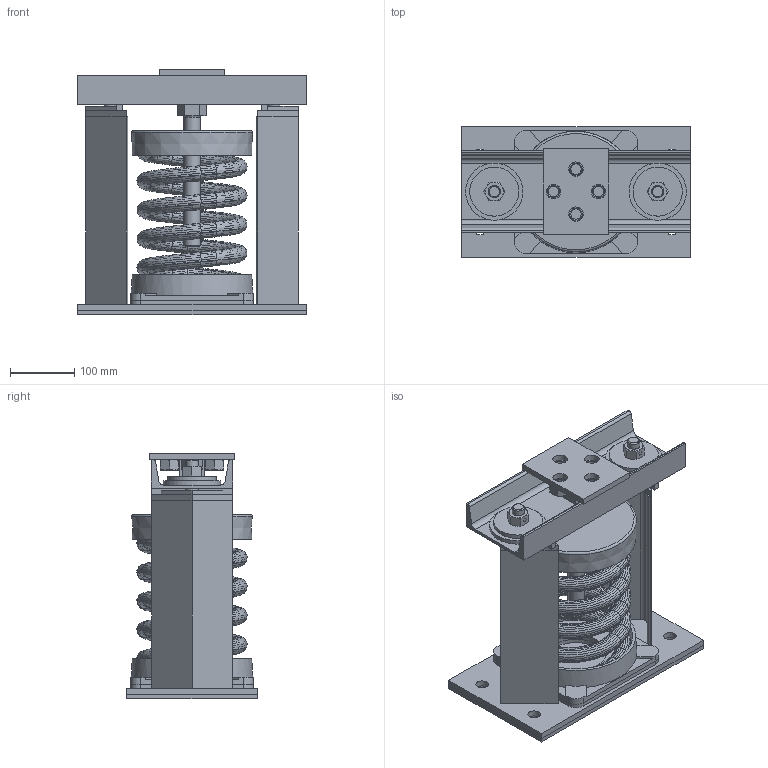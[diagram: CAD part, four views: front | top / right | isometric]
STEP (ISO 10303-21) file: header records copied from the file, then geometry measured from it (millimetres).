
FILE_DESCRIPTION(/* description */ (''),/* implementation_level */ '2;1');
FILE_NAME(/* name */ 'C:\001_Work\Designs\SLR-100 SERIES\SLR 100 SERIES (STOCK MOUNTS)\SLR 114, 115, 136, 156-158\SLR-136.stp',/* time_stamp */ '2016-01-19T10:17:24-05:00',/* author */ ('rramoutar'),/* organization */ (''),/* preprocessor_version */ 'ST-DEVELOPER v15.6',/* originating_system */ 'Autodesk Inventor 2015',/* authorisation */ '');
FILE_SCHEMA (('CONFIG_CONTROL_DESIGN'));
Products named in the file (26): A-21759-1 BASE PLATE SLR 114; A-21759-1 NEOPRENE PAD SLR 114; ANSI_ASME B18.2.1 - 3_4-10 UNC - 2.5(2); A-21754-1 0375 x 5000 SQR BAR; A-30703 DOWNSTOP; A-21761-1 SHELF PLATE SLR 114; A-21759-1 STANCHION SLR 114; ANSI_ASME B18.2.1 - 3_4-10 UNC - 2.5(2)_1; A-21759-2 SLR-114-115, 136, 156-158 BASE ASSY; A-21760-1 TOP CHANNEL SLR 114; A-21760-1 TOP PLATE SLR 114; A-21760-1 PIN SLR 114; ANSI B18.2.2 - 3_4 - 10(2); A-21760-2 TOP CHANNEL INNER PLATE SLR 114.iam; A-21760-2 SLR-114-115, 136, 156-158 TOP CHANNEL ASSY; A-12863-1 LOWER SPRING CASTING 6.75; A-12863-1 LOWER CASTING 6750  NEOPRENE PAD; A-12870-4 6.75 SPRING TOP CASTING; A-21944-1 SLR ADJUSTMENT BOLT 1-8 UNC x 6 LONG; ANSI B18.2.2 - 3_4 - 10(2)_1; A-21761-1 LOOSE WASHER SLR 114; A-30703 SLR NEOPRENE BUSHING FOR 1.750 HOLE; ANSI B18.2.2 - 3_4 - 10(2)_2; SLR-114-115, 136 (WOS) PER A-21758-3; SPRING 136 FH (BLUE-BROWN) (REVIT INTPOLY) (XLS); SLR-136 PER A-21758-3
Assembly tree (35 placements, depth 4):
  SLR-136 PER A-21758-3
    SLR-114-115, 136 (WOS) PER A-21758-3
      A-21759-2 SLR-114-115, 136, 156-158 BASE ASSY
        A-21759-1 BASE PLATE SLR 114
        A-21759-1 NEOPRENE PAD SLR 114
        ANSI_ASME B18.2.1 - 3_4-10 UNC - 2.5(2)
        A-21754-1 0375 x 5000 SQR BAR  x2
        A-30703 DOWNSTOP  x2
        A-21761-1 SHELF PLATE SLR 114  x2
        A-21759-1 STANCHION SLR 114  x2
        ANSI_ASME B18.2.1 - 3_4-10 UNC - 2.5(2)_1
      A-21760-2 SLR-114-115, 136, 156-158 TOP CHANNEL ASSY
        A-21760-1 TOP CHANNEL SLR 114
        A-21760-1 TOP PLATE SLR 114
        A-21760-1 PIN SLR 114
        ANSI B18.2.2 - 3_4 - 10(2)  x4
        A-21760-2 TOP CHANNEL INNER PLATE SLR 114.iam  x2
      A-12863-1 LOWER SPRING CASTING 6.75
      A-12863-1 LOWER CASTING 6750  NEOPRENE PAD
      A-12870-4 6.75 SPRING TOP CASTING
      A-21944-1 SLR ADJUSTMENT BOLT 1-8 UNC x 6 LONG
      ANSI B18.2.2 - 3_4 - 10(2)_1
      A-21761-1 LOOSE WASHER SLR 114  x2
      A-30703 SLR NEOPRENE BUSHING FOR 1.750 HOLE  x2
      ANSI B18.2.2 - 3_4 - 10(2)_2
    SPRING 136 FH (BLUE-BROWN) (REVIT INTPOLY) (XLS)
Bounding box: 355.6 x 203.2 x 381 mm (x, y, z)
Volume: 3850516.4 mm3; surface area: 1477425.8 mm2
Topology: 54 solids, 54 shells, 1066 faces, 2691 edges, 1746 vertices
Faces by surface type: bspline 505, plane 361, cone 122, cylinder 74, torus 4
Full cylindrical faces by diameter (mm): 9.525 x2, 11.112 x1, 12.7 x4, 16.307 x6, 19.05 x10, 19.507 x2, 20.637 x4, 22.225 x5, 25.4 x1, 28.575 x2, 38.1 x3, 44.45 x4, 76.2 x2, 88.9 x2, 95.25 x2, 176.212 x2
Entity records: 50959 total; most frequent: CARTESIAN_POINT 32244, ORIENTED_EDGE 4710, EDGE_CURVE 2355, DIRECTION 1951, VERTEX_POINT 1567, B_SPLINE_CURVE_WITH_KNOTS 1499, EDGE_LOOP 1114, FACE_OUTER_BOUND 949
